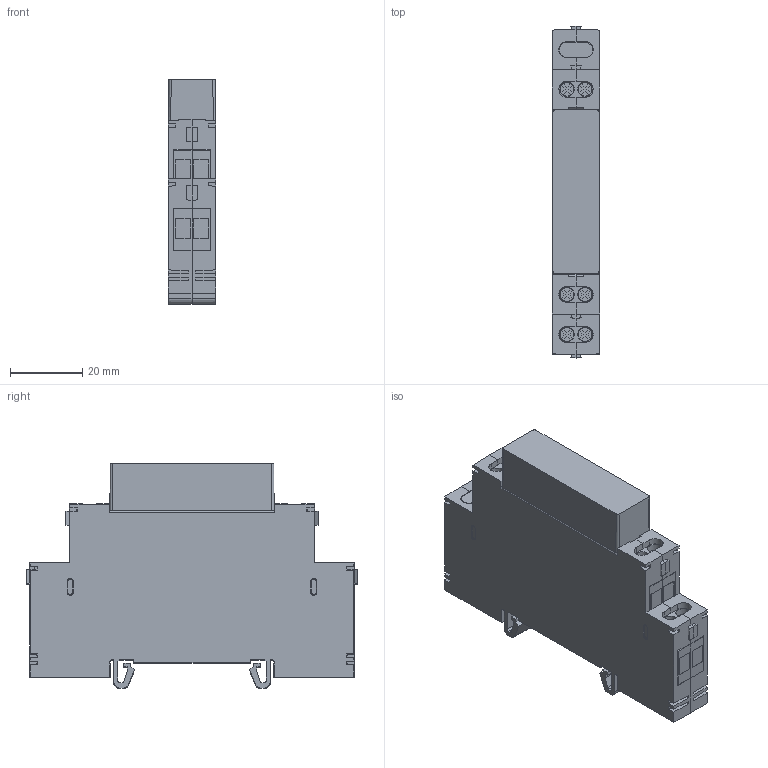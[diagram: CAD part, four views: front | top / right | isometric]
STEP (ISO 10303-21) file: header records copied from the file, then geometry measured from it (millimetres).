
FILE_DESCRIPTION (( 'STEP AP214' ), '1' );
FILE_NAME ('CSV2_CSV4.STEP', '2015-04-22T07:07:23', ( '' ), ( '' ), 'SwSTEP 2.0', 'SolidWorks 2015', '' );
FILE_SCHEMA (( 'AUTOMOTIVE_DESIGN' ));
Length unit declared in the file: millimetre
Products named in the file (1): CSV2_CSV4
Bounding box: 13 x 91.7 x 62.12 mm (x, y, z)
Volume: 55179.1 mm3; surface area: 14620 mm2
Topology: 1 solids, 1 shells, 497 faces, 1299 edges, 822 vertices
Faces by surface type: plane 390, cylinder 71, cone 20, torus 16
Entity records: 15007 total; most frequent: CARTESIAN_POINT 2741, ORIENTED_EDGE 2598, DIRECTION 2463, EDGE_CURVE 1299, VECTOR 1051, LINE 1051, VERTEX_POINT 822, AXIS2_PLACEMENT_3D 706
